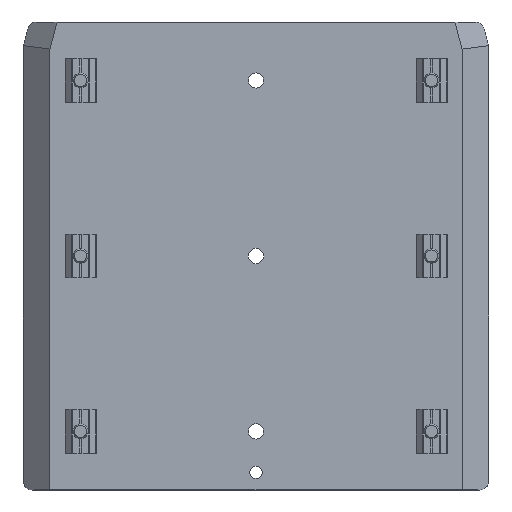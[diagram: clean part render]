
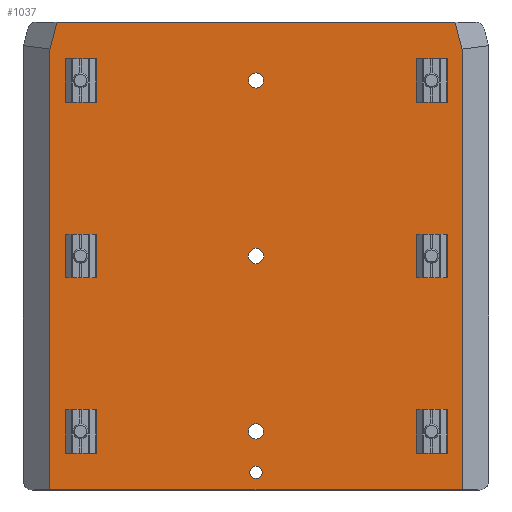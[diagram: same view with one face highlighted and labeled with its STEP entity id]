
A CAD part, top view. The second image highlights one B-rep face of the part: STEP entity #1037.
In plain terms, the highlighted planar face has unit normal (0, 0, 1).
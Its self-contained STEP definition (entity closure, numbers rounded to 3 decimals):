
#1037=ADVANCED_FACE('',(#1965,#1966,#1967,#1968,#1969,#1970,#1971,#1972,#1973,#1974,#1975),#1976,.T.);
#1965=FACE_OUTER_BOUND('',#2884,.T.);
#1966=FACE_BOUND('',#2885,.T.);
#1967=FACE_BOUND('',#2886,.T.);
#1968=FACE_BOUND('',#2887,.T.);
#1969=FACE_BOUND('',#2888,.T.);
#1970=FACE_BOUND('',#2889,.T.);
#1971=FACE_BOUND('',#2890,.T.);
#1972=FACE_BOUND('',#2891,.T.);
#1973=FACE_BOUND('',#2892,.T.);
#1974=FACE_BOUND('',#2893,.T.);
#1975=FACE_BOUND('',#2894,.T.);
#1976=PLANE('',#2895);
#2884=EDGE_LOOP('',(#5394,#5395,#5396,#5397,#5398,#5399));
#2885=EDGE_LOOP('',(#5400));
#2886=EDGE_LOOP('',(#5401));
#2887=EDGE_LOOP('',(#5402));
#2888=EDGE_LOOP('',(#5403));
#2889=EDGE_LOOP('',(#5404));
#2890=EDGE_LOOP('',(#5405));
#2891=EDGE_LOOP('',(#5406));
#2892=EDGE_LOOP('',(#5407));
#2893=EDGE_LOOP('',(#5408));
#2894=EDGE_LOOP('',(#5409));
#2895=AXIS2_PLACEMENT_3D('',#5410,#5411,#5412);
#5394=ORIENTED_EDGE('',*,*,#6606,.F.);
#5395=ORIENTED_EDGE('',*,*,#6585,.T.);
#5396=ORIENTED_EDGE('',*,*,#6607,.F.);
#5397=ORIENTED_EDGE('',*,*,#6608,.F.);
#5398=ORIENTED_EDGE('',*,*,#6570,.T.);
#5399=ORIENTED_EDGE('',*,*,#6609,.F.);
#5400=ORIENTED_EDGE('',*,*,#6610,.F.);
#5401=ORIENTED_EDGE('',*,*,#6611,.F.);
#5402=ORIENTED_EDGE('',*,*,#6612,.F.);
#5403=ORIENTED_EDGE('',*,*,#6613,.F.);
#5404=ORIENTED_EDGE('',*,*,#6614,.F.);
#5405=ORIENTED_EDGE('',*,*,#6615,.F.);
#5406=ORIENTED_EDGE('',*,*,#6616,.F.);
#5407=ORIENTED_EDGE('',*,*,#6617,.F.);
#5408=ORIENTED_EDGE('',*,*,#6618,.F.);
#5409=ORIENTED_EDGE('',*,*,#6619,.F.);
#5410=CARTESIAN_POINT('',(-80.0,-80.0,10.0));
#5411=DIRECTION('',(0.0,0.0,1.0));
#5412=DIRECTION('',(1.0,0.0,0.0));
#6570=EDGE_CURVE('',#8060,#8057,#8061,.T.);
#6585=EDGE_CURVE('',#8077,#8085,#8087,.T.);
#6606=EDGE_CURVE('',#8077,#8120,#8121,.F.);
#6607=EDGE_CURVE('',#8122,#8085,#8123,.F.);
#6608=EDGE_CURVE('',#8060,#8122,#8124,.F.);
#6609=EDGE_CURVE('',#8120,#8057,#8125,.F.);
#6610=EDGE_CURVE('',#8126,#8126,#8127,.T.);
#6611=EDGE_CURVE('',#8128,#8128,#8129,.T.);
#6612=EDGE_CURVE('',#8130,#8130,#8131,.T.);
#6613=EDGE_CURVE('',#8132,#8132,#8133,.T.);
#6614=EDGE_CURVE('',#8134,#8134,#8135,.T.);
#6615=EDGE_CURVE('',#8136,#8136,#8137,.T.);
#6616=EDGE_CURVE('',#8138,#8138,#8139,.T.);
#6617=EDGE_CURVE('',#8140,#8140,#8141,.T.);
#6618=EDGE_CURVE('',#8142,#8142,#8143,.T.);
#6619=EDGE_CURVE('',#8144,#8144,#8145,.T.);
#8057=VERTEX_POINT('',#10109);
#8060=VERTEX_POINT('',#10113);
#8061=LINE('',#10114,#10115);
#8077=VERTEX_POINT('',#10138);
#8085=VERTEX_POINT('',#10150);
#8087=LINE('',#10153,#10154);
#8120=VERTEX_POINT('',#10190);
#8121=LINE('',#10191,#10192);
#8122=VERTEX_POINT('',#10193);
#8123=LINE('',#10194,#10195);
#8124=LINE('',#10196,#10197);
#8125=LINE('',#10198,#10199);
#8126=VERTEX_POINT('',#10200);
#8127=CIRCLE('',#10201,2.6);
#8128=VERTEX_POINT('',#10202);
#8129=CIRCLE('',#10203,2.6);
#8130=VERTEX_POINT('',#10204);
#8131=CIRCLE('',#10205,2.6);
#8132=VERTEX_POINT('',#10206);
#8133=CIRCLE('',#10207,2.6);
#8134=VERTEX_POINT('',#10208);
#8135=CIRCLE('',#10209,2.6);
#8136=VERTEX_POINT('',#10210);
#8137=CIRCLE('',#10211,2.6);
#8138=VERTEX_POINT('',#10212);
#8139=CIRCLE('',#10213,2.6);
#8140=VERTEX_POINT('',#10214);
#8141=CIRCLE('',#10215,2.6);
#8142=VERTEX_POINT('',#10216);
#8143=CIRCLE('',#10217,2.6);
#8144=VERTEX_POINT('',#10218);
#8145=CIRCLE('',#10219,2.1);
#10109=CARTESIAN_POINT('',(-68.031,80.0,10.0));
#10113=CARTESIAN_POINT('',(68.012,80.0,10.0));
#10114=CARTESIAN_POINT('',(80.0,80.0,10.0));
#10115=VECTOR('',#11418,1.0);
#10138=CARTESIAN_POINT('',(-70.509,-80.0,10.0));
#10150=CARTESIAN_POINT('',(70.491,-80.0,10.0));
#10153=CARTESIAN_POINT('',(-80.0,-80.0,10.0));
#10154=VECTOR('',#11431,1.0);
#10190=CARTESIAN_POINT('',(-70.509,70.751,10.0));
#10191=CARTESIAN_POINT('',(-70.509,0.,10.0));
#10192=VECTOR('',#11477,1.0);
#10193=CARTESIAN_POINT('',(70.491,70.748,10.0));
#10194=CARTESIAN_POINT('',(70.491,0.,10.0));
#10195=VECTOR('',#11478,1.0);
#10196=CARTESIAN_POINT('',(83.456,22.362,10.0));
#10197=VECTOR('',#11479,1.0);
#10198=CARTESIAN_POINT('',(-83.473,22.367,10.0));
#10199=VECTOR('',#11480,1.0);
#10200=CARTESIAN_POINT('',(-57.4,-60.0,10.0));
#10201=AXIS2_PLACEMENT_3D('',#11481,#11482,#11483);
#10202=CARTESIAN_POINT('',(2.6,-60.0,10.0));
#10203=AXIS2_PLACEMENT_3D('',#11484,#11485,#11486);
#10204=CARTESIAN_POINT('',(62.6,-60.0,10.0));
#10205=AXIS2_PLACEMENT_3D('',#11487,#11488,#11489);
#10206=CARTESIAN_POINT('',(62.6,0.,10.0));
#10207=AXIS2_PLACEMENT_3D('',#11490,#11491,#11492);
#10208=CARTESIAN_POINT('',(2.6,0.,10.0));
#10209=AXIS2_PLACEMENT_3D('',#11493,#11494,#11495);
#10210=CARTESIAN_POINT('',(-57.4,0.,10.0));
#10211=AXIS2_PLACEMENT_3D('',#11496,#11497,#11498);
#10212=CARTESIAN_POINT('',(-57.4,60.0,10.0));
#10213=AXIS2_PLACEMENT_3D('',#11499,#11500,#11501);
#10214=CARTESIAN_POINT('',(2.6,60.0,10.0));
#10215=AXIS2_PLACEMENT_3D('',#11502,#11503,#11504);
#10216=CARTESIAN_POINT('',(62.6,60.0,10.0));
#10217=AXIS2_PLACEMENT_3D('',#11505,#11506,#11507);
#10218=CARTESIAN_POINT('',(2.1,-74.0,10.0));
#10219=AXIS2_PLACEMENT_3D('',#11508,#11509,#11510);
#11418=DIRECTION('',(-1.0,0.0,0.0));
#11431=DIRECTION('',(1.0,0.0,0.0));
#11477=DIRECTION('',(0.,-1.0,0.0));
#11478=DIRECTION('',(0.,1.0,0.0));
#11479=DIRECTION('',(-0.259,0.966,0.0));
#11480=DIRECTION('',(-0.259,-0.966,0.0));
#11481=CARTESIAN_POINT('',(-60.0,-60.0,10.0));
#11482=DIRECTION('',(0.0,0.0,1.0));
#11483=DIRECTION('',(1.0,0.0,0.0));
#11484=CARTESIAN_POINT('',(0.,-60.0,10.0));
#11485=DIRECTION('',(0.0,0.0,1.0));
#11486=DIRECTION('',(1.0,0.0,0.0));
#11487=CARTESIAN_POINT('',(60.0,-60.0,10.0));
#11488=DIRECTION('',(0.0,0.0,1.0));
#11489=DIRECTION('',(1.0,0.0,0.0));
#11490=CARTESIAN_POINT('',(60.0,0.,10.0));
#11491=DIRECTION('',(0.0,0.0,1.0));
#11492=DIRECTION('',(1.0,0.0,0.0));
#11493=CARTESIAN_POINT('',(0.,0.,10.0));
#11494=DIRECTION('',(0.0,0.0,1.0));
#11495=DIRECTION('',(1.0,0.0,0.0));
#11496=CARTESIAN_POINT('',(-60.0,0.,10.0));
#11497=DIRECTION('',(0.0,0.0,1.0));
#11498=DIRECTION('',(1.0,0.0,0.0));
#11499=CARTESIAN_POINT('',(-60.0,60.0,10.0));
#11500=DIRECTION('',(0.0,0.0,1.0));
#11501=DIRECTION('',(1.0,0.0,0.0));
#11502=CARTESIAN_POINT('',(0.,60.0,10.0));
#11503=DIRECTION('',(0.0,0.0,1.0));
#11504=DIRECTION('',(1.0,0.0,0.0));
#11505=CARTESIAN_POINT('',(60.0,60.0,10.0));
#11506=DIRECTION('',(0.0,0.0,1.0));
#11507=DIRECTION('',(1.0,0.0,0.0));
#11508=CARTESIAN_POINT('',(0.,-74.0,10.0));
#11509=DIRECTION('',(0.0,0.0,1.0));
#11510=DIRECTION('',(1.0,0.0,0.0));
